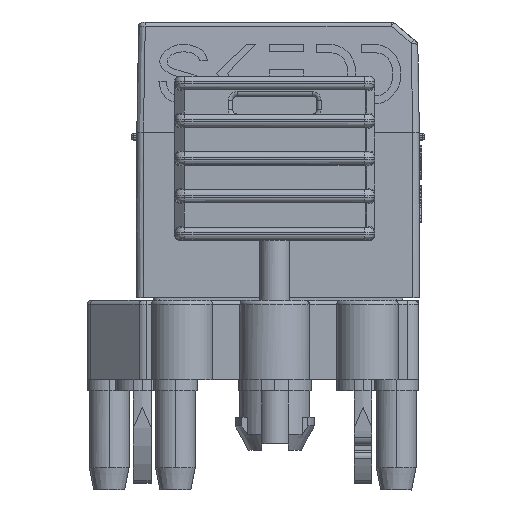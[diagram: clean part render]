
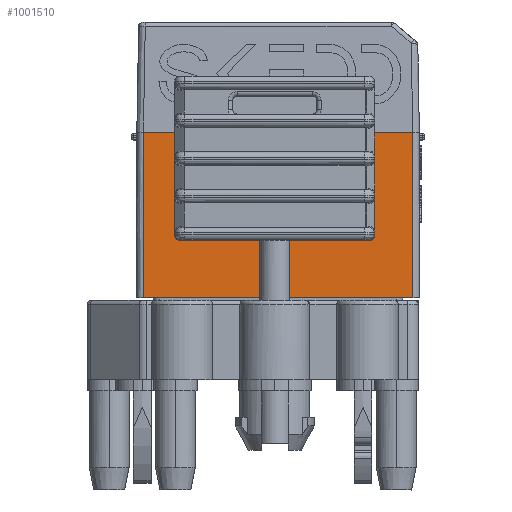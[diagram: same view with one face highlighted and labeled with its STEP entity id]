
A CAD part, left-side view. The second image highlights one B-rep face of the part: STEP entity #1001510.
In plain terms, the highlighted planar face has unit normal (-1, 0, 0) as drawn and (0, 0, -1) by its records, which use the part's own axes.
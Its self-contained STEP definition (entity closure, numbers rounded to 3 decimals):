
#912740=CARTESIAN_POINT('',(28.29,21.736,
-65.42));
#912750=VERTEX_POINT('',#912740);
#912840=CARTESIAN_POINT('',(20.803,21.736,
-65.42));
#912850=VERTEX_POINT('',#912840);
#912880=CARTESIAN_POINT('',(20.803,21.736,
-65.42));
#912890=CARTESIAN_POINT('',(20.842,21.736,
-65.42));
#912900=CARTESIAN_POINT('',(20.88,21.736,
-65.42));
#912910=CARTESIAN_POINT('',(22.14,21.736,
-65.42));
#912920=CARTESIAN_POINT('',(23.36,21.736,
-65.42));
#912930=CARTESIAN_POINT('',(25.917,21.736,
-65.42));
#912940=CARTESIAN_POINT('',(27.253,21.736,
-65.42));
#912950=CARTESIAN_POINT('',(28.59,21.736,
-65.42));
#912960=B_SPLINE_CURVE_WITH_KNOTS('',3,(#912880,#912890,#912900,#912910,
#912920,#912930,#912940,#912950),.UNSPECIFIED.,.F.,.F.,(4,2,2,4),(0.,
0.121,3.781,7.791),.UNSPECIFIED.);
#912970=EDGE_CURVE('',#912850,#912750,#912960,.T.);
#985060=CARTESIAN_POINT('',(28.29,0.,
-65.42));
#985070=DIRECTION('',(0.,-1.,0.));
#985080=VECTOR('',#985070,1.);
#985090=LINE('',#985060,#985080);
#985100=CARTESIAN_POINT('',(28.29,9.536,
-65.42));
#985110=VERTEX_POINT('',#985100);
#985120=EDGE_CURVE('',#912750,#985110,#985090,.T.);
#993780=CARTESIAN_POINT('',(20.803,9.536,
-65.42));
#993790=VERTEX_POINT('',#993780);
#1000570=CARTESIAN_POINT('',(20.79,22.036,
-65.42));
#1000580=DIRECTION('',(0.,0.,-1.));
#1000590=DIRECTION('',(1.,0.,0.));
#1000600=AXIS2_PLACEMENT_3D('',#1000570,#1000580,#1000590);
#1000610=PLANE('',#1000600);
#1000620=CARTESIAN_POINT('',(21.89,0.,-65.42));
#1000630=DIRECTION('',(0.,-1.,0.));
#1000640=VECTOR('',#1000630,1.);
#1000650=LINE('',#1000620,#1000640);
#1000660=CARTESIAN_POINT('',(21.89,19.336,
-65.42));
#1000670=VERTEX_POINT('',#1000660);
#1000680=CARTESIAN_POINT('',(21.89,18.336,
-65.42));
#1000690=VERTEX_POINT('',#1000680);
#1000700=EDGE_CURVE('',#1000670,#1000690,#1000650,.T.);
#1000710=ORIENTED_EDGE('',*,*,#1000700,.T.);
#1000720=CARTESIAN_POINT('',(0.,19.336,-65.42));
#1000730=DIRECTION('',(-1.,0.,0.));
#1000740=VECTOR('',#1000730,1.);
#1000750=LINE('',#1000720,#1000740);
#1000760=CARTESIAN_POINT('',(25.09,19.336,
-65.42));
#1000770=VERTEX_POINT('',#1000760);
#1000780=EDGE_CURVE('',#1000770,#1000670,#1000750,.T.);
#1000790=ORIENTED_EDGE('',*,*,#1000780,.T.);
#1000800=CARTESIAN_POINT('',(25.09,0.,-65.42));
#1000810=DIRECTION('',(0.,-1.,0.));
#1000820=VECTOR('',#1000810,1.);
#1000830=LINE('',#1000800,#1000820);
#1000840=CARTESIAN_POINT('',(25.09,18.336,
-65.42));
#1000850=VERTEX_POINT('',#1000840);
#1000860=EDGE_CURVE('',#1000770,#1000850,#1000830,.T.);
#1000870=ORIENTED_EDGE('',*,*,#1000860,.F.);
#1000880=CARTESIAN_POINT('',(0.,18.336,-65.42));
#1000890=DIRECTION('',(1.,0.,0.));
#1000900=VECTOR('',#1000890,1.);
#1000910=LINE('',#1000880,#1000900);
#1000920=EDGE_CURVE('',#1000690,#1000850,#1000910,.T.);
#1000930=ORIENTED_EDGE('',*,*,#1000920,.T.);
#1000940=EDGE_LOOP('',(#1000930,#1000870,#1000790,#1000710));
#1000950=FACE_BOUND('',#1000940,.T.);
#1000960=CARTESIAN_POINT('',(21.89,0.,-65.42));
#1000970=DIRECTION('',(0.,-1.,0.));
#1000980=VECTOR('',#1000970,1.);
#1000990=LINE('',#1000960,#1000980);
#1001000=CARTESIAN_POINT('',(21.89,13.236,
-65.42));
#1001010=VERTEX_POINT('',#1001000);
#1001020=CARTESIAN_POINT('',(21.89,12.236,
-65.42));
#1001030=VERTEX_POINT('',#1001020);
#1001040=EDGE_CURVE('',#1001010,#1001030,#1000990,.T.);
#1001050=ORIENTED_EDGE('',*,*,#1001040,.T.);
#1001060=CARTESIAN_POINT('',(0.,13.236,-65.42));
#1001070=DIRECTION('',(1.,0.,0.));
#1001080=VECTOR('',#1001070,1.);
#1001090=LINE('',#1001060,#1001080);
#1001100=CARTESIAN_POINT('',(25.09,13.236,
-65.42));
#1001110=VERTEX_POINT('',#1001100);
#1001120=EDGE_CURVE('',#1001010,#1001110,#1001090,.T.);
#1001130=ORIENTED_EDGE('',*,*,#1001120,.F.);
#1001140=CARTESIAN_POINT('',(25.09,0.,-65.42));
#1001150=DIRECTION('',(0.,-1.,0.));
#1001160=VECTOR('',#1001150,1.);
#1001170=LINE('',#1001140,#1001160);
#1001180=CARTESIAN_POINT('',(25.09,12.236,
-65.42));
#1001190=VERTEX_POINT('',#1001180);
#1001200=EDGE_CURVE('',#1001110,#1001190,#1001170,.T.);
#1001210=ORIENTED_EDGE('',*,*,#1001200,.F.);
#1001220=CARTESIAN_POINT('',(0.,12.236,-65.42));
#1001230=DIRECTION('',(1.,0.,0.));
#1001240=VECTOR('',#1001230,1.);
#1001250=LINE('',#1001220,#1001240);
#1001260=EDGE_CURVE('',#1001030,#1001190,#1001250,.T.);
#1001270=ORIENTED_EDGE('',*,*,#1001260,.T.);
#1001280=EDGE_LOOP('',(#1001270,#1001210,#1001130,#1001050));
#1001290=FACE_BOUND('',#1001280,.T.);
#1001300=CARTESIAN_POINT('',(20.803,0.,
-65.42));
#1001310=DIRECTION('',(0.,-1.,0.));
#1001320=VECTOR('',#1001310,1.);
#1001330=LINE('',#1001300,#1001320);
#1001340=EDGE_CURVE('',#912850,#993790,#1001330,.T.);
#1001350=ORIENTED_EDGE('',*,*,#1001340,.F.);
#1001360=CARTESIAN_POINT('',(20.803,9.536,
-65.42));
#1001370=CARTESIAN_POINT('',(20.842,9.536,
-65.42));
#1001380=CARTESIAN_POINT('',(20.88,9.536,
-65.42));
#1001390=CARTESIAN_POINT('',(22.14,9.536,
-65.42));
#1001400=CARTESIAN_POINT('',(23.36,9.536,
-65.42));
#1001410=CARTESIAN_POINT('',(49.553,9.536,
-65.42));
#1001420=CARTESIAN_POINT('',(74.526,9.536,
-65.42));
#1001430=CARTESIAN_POINT('',(99.499,9.536,
-65.42));
#1001440=B_SPLINE_CURVE_WITH_KNOTS('',3,(#1001360,#1001370,#1001380,
#1001390,#1001400,#1001410,#1001420,#1001430),.UNSPECIFIED.,.F.,.F.,(4,2
,2,4),(-78.7,-78.578,-74.919,
0.),.UNSPECIFIED.);
#1001450=EDGE_CURVE('',#993790,#985110,#1001440,.T.);
#1001460=ORIENTED_EDGE('',*,*,#1001450,.F.);
#1001470=ORIENTED_EDGE('',*,*,#985120,.T.);
#1001480=ORIENTED_EDGE('',*,*,#912970,.T.);
#1001490=EDGE_LOOP('',(#1001480,#1001470,#1001460,#1001350));
#1001500=FACE_OUTER_BOUND('',#1001490,.T.);
#1001510=ADVANCED_FACE('',(#1000950,#1001290,#1001500),#1000610,.T.);
